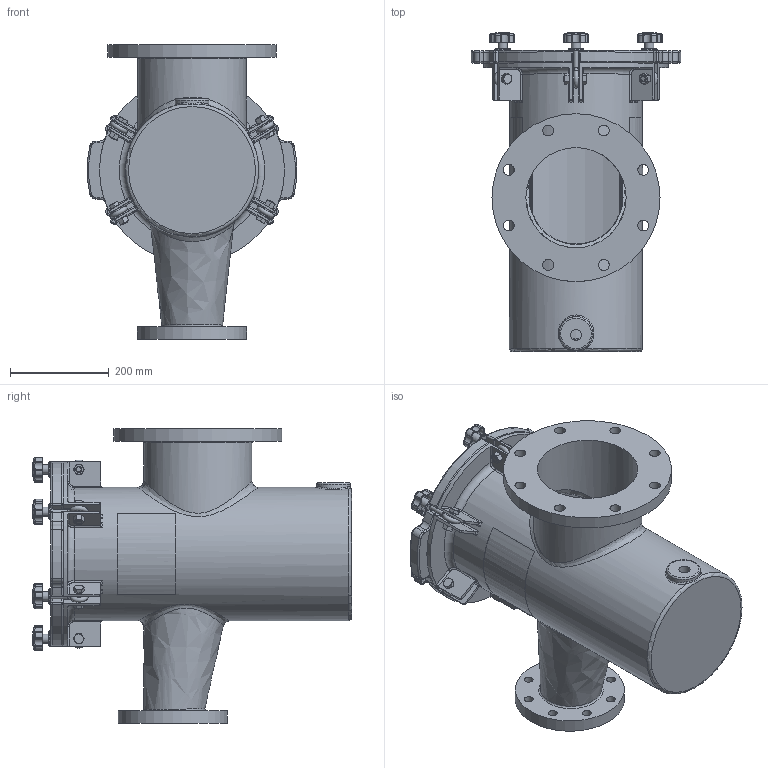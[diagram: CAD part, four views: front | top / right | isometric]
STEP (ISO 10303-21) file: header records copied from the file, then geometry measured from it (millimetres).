
FILE_DESCRIPTION(/* description */ ('200MM X 100MM FIBERGLASS STRAINER BODY'),/* implementation_level */ '2;1');
FILE_NAME(/* name */ 'E:\New folder (7)\Ready for delivery - Do not Disturb -Updated with metric Flange\Workspace\FG Reducing Strainer\Guardian FG Reducing H&L Strainer (Metric)\STRAINER H&L 200MM X 100MM.step',/* time_stamp */ '2016-10-19T04:14:29+06:00',/* author */ ('20076253'),/* organization */ (''),/* preprocessor_version */ 'ST-DEVELOPER v16.1',/* originating_system */ 'Autodesk Inventor 2016',/* authorisation */ '');
FILE_SCHEMA (('AUTOMOTIVE_DESIGN { 1 0 10303 214 3 1 1 }'));
Length unit declared in the file: inch
Products named in the file (18): NBFGBODY08X04MM; 150NBCVR48R1; 150NBGSK48R1; Perforated Basket 10in; Bride (Ring) 10in; Baffle 10in; Handle 10in; Bottom Strainer 10in; NBBSK08T316; Nut- 1_2  UNC; Bolt-1_2 x 1 1_2  UNC; EyeBolt; Washer; Knob M10; Securing Assembly For FG without Brace; Label for 10.625 inch (Right); Label for 10.625 inch (Left); STRAINER H&L 200MM X 100MM
Assembly tree (22 placements, depth 3):
  STRAINER H&L 200MM X 100MM
    NBFGBODY08X04MM
    150NBCVR48R1
    150NBGSK48R1
    NBBSK08T316
      Perforated Basket 10in
      Bride (Ring) 10in
      Baffle 10in
      Handle 10in
      Bottom Strainer 10in
    Securing Assembly For FG without Brace  x6
      Nut- 1_2  UNC
      Bolt-1_2 x 1 1_2  UNC
      EyeBolt
      Washer
      Knob M10
    Label for 10.625 inch (Right)
    Label for 10.625 inch (Left)
Bounding box: 424.18 x 646.2 x 596.9 mm (x, y, z)
Volume: 11722891.9 mm3; surface area: 2841355.7 mm2
Topology: 40 solids, 40 shells, 1268 faces, 2910 edges, 1721 vertices
Faces by surface type: cylinder 462, plane 330, cone 138, torus 124, bspline 112, sphere 102
Full cylindrical faces by diameter (mm): 3.175 x10, 6.35 x2, 8.382 x6, 9.525 x12, 10.592 x6, 12.7 x6, 15.875 x12, 17.78 x8, 19 x12, 19.05 x6, 22.098 x8, 22.809 x1, 31.75 x6, 68.263 x1, 187.325 x2, 190.5 x1, 203.2 x1, 219.075 x1, 220.98 x1, 254 x2, 266.7 x1, 269.875 x1, 276.225 x1, 311.15 x1, 317.5 x1, 340.36 x1
Entity records: 26126 total; most frequent: CARTESIAN_POINT 10202, DIRECTION 3288, ORIENTED_EDGE 2994, EDGE_CURVE 1497, AXIS2_PLACEMENT_3D 1388, VERTEX_POINT 949, EDGE_LOOP 854, CIRCLE 701
